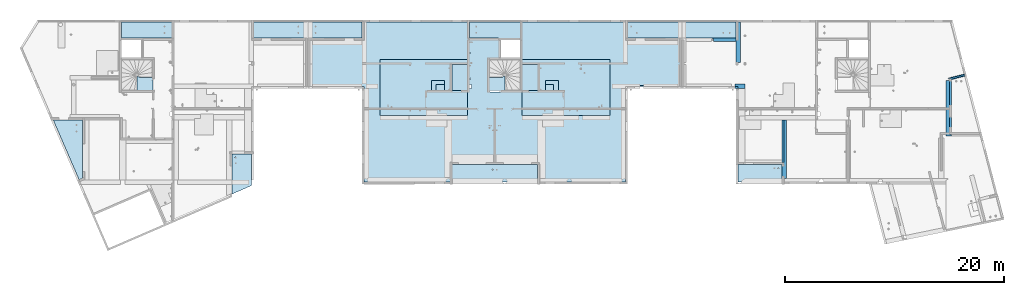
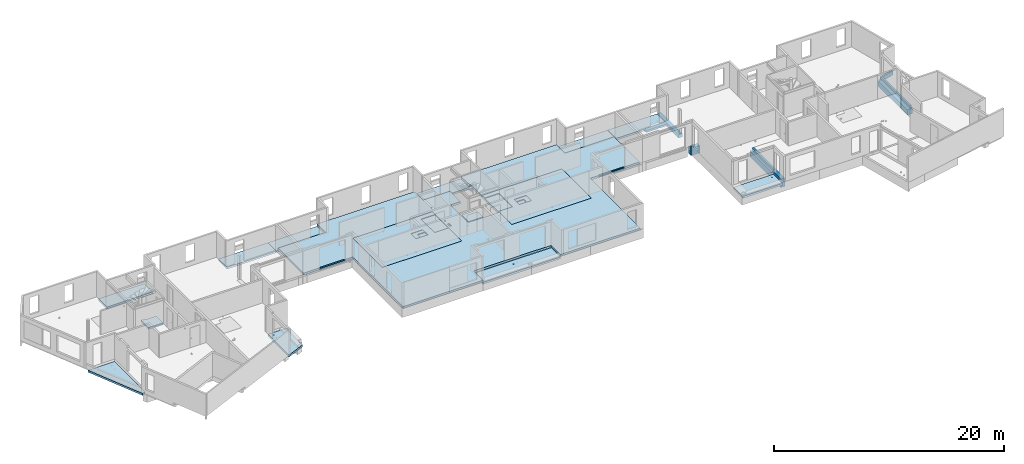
# One storey, part 3 of 34: 15 slabs, 6 beams, 14 openings.
"""IFC2X3 building model written with IfcOpenShell, lengths in centimetres."""

from ifc_helpers import new_model, entity, si_unit, converted_unit, derived_unit, direction, frame, frame_2d, origin, origin_2d_with_axis, place, context, subcontext, project, spatial, polyline, circle_curve, parameter, trimmed, segment, composite_curve, rectangle, circle, outline, extrude, faceted_brep, material, layer, layer_set, layer_usage, type_object, element, save


model = new_model("IFC2X3")

# Units and contexts
model_context = context("Model", 3, precision=0.001, world=origin(), true_north=direction((6.12303176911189e-17, 1.0)))
body_context = subcontext(model_context, "Body", "Model", "MODEL_VIEW")
ifc_project = project(units=[si_unit("LENGTHUNIT", "METRE", prefix="CENTI"), si_unit("AREAUNIT", "SQUARE_METRE"), si_unit("VOLUMEUNIT", "CUBIC_METRE"), converted_unit("PLANEANGLEUNIT", "DEGREE", entity("IfcRatioMeasure", 0.0174532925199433), si_unit("PLANEANGLEUNIT", "RADIAN"), dimensions=[0, 0, 0, 0, 0, 0, 0]), si_unit("MASSUNIT", "GRAM", prefix="KILO"), derived_unit("MASSDENSITYUNIT", [(si_unit("MASSUNIT", "GRAM", prefix="KILO"), 1), (si_unit("LENGTHUNIT", "METRE"), -3)]), si_unit("TIMEUNIT", "SECOND"), si_unit("FREQUENCYUNIT", "HERTZ"), si_unit("THERMODYNAMICTEMPERATUREUNIT", "DEGREE_CELSIUS"), derived_unit("THERMALTRANSMITTANCEUNIT", [(si_unit("MASSUNIT", "GRAM", prefix="KILO"), 1), (si_unit("THERMODYNAMICTEMPERATUREUNIT", "KELVIN"), -1), (si_unit("TIMEUNIT", "SECOND"), -3)]), derived_unit("VOLUMETRICFLOWRATEUNIT", [(si_unit("LENGTHUNIT", "METRE"), 3), (si_unit("TIMEUNIT", "SECOND"), -1)]), si_unit("ELECTRICCURRENTUNIT", "AMPERE"), si_unit("ELECTRICVOLTAGEUNIT", "VOLT"), si_unit("POWERUNIT", "WATT"), si_unit("FORCEUNIT", "NEWTON"), si_unit("ILLUMINANCEUNIT", "LUX"), si_unit("LUMINOUSFLUXUNIT", "LUMEN"), si_unit("LUMINOUSINTENSITYUNIT", "CANDELA"), derived_unit("USERDEFINED", [(si_unit("MASSUNIT", "GRAM", prefix="KILO"), -1), (si_unit("LENGTHUNIT", "METRE"), -2), (si_unit("TIMEUNIT", "SECOND"), 3), (si_unit("LUMINOUSFLUXUNIT", "LUMEN"), 1)]), derived_unit("LINEARVELOCITYUNIT", [(si_unit("LENGTHUNIT", "METRE"), 1), (si_unit("TIMEUNIT", "SECOND"), -1)]), si_unit("PRESSUREUNIT", "PASCAL"), derived_unit("USERDEFINED", [(si_unit("LENGTHUNIT", "METRE"), -2), (si_unit("MASSUNIT", "GRAM", prefix="KILO"), 1), (si_unit("TIMEUNIT", "SECOND"), -2)])], contexts=[model_context])

# Site, building, storey
site_placement = place(None, origin())
site = spatial("IfcSite", under=ifc_project, at=site_placement, Name="Default", CompositionType="ELEMENT")
building_placement = place(site_placement, origin())
building = spatial("IfcBuilding", under=site, at=building_placement, Name="CAGE 03", CompositionType="ELEMENT")
storey_placement = place(building_placement, frame((0.0, 0.0, 340.0)))
storey = spatial("IfcBuildingStorey", under=building, at=storey_placement, Name="R+1", CompositionType="ELEMENT", Elevation=340.0)

# Beams
ifc_material = material(Name="Béton, C25/30")
beam_type_1 = type_object("IfcBeamType", Name="BBGO-Poutre rect:50x80ht", PredefinedType="BEAM")
beam_1_placement = place(storey_placement, frame((11198.3658201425, 4233.66066607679, -80.0), z_axis=(0.0, 0.0, 1.0), x_axis=(0.0, 1.0, 0.0)))
element("IfcBeam", 1, at=beam_1_placement, inside=storey, type_object=beam_type_1, material=ifc_material, Name="BBGO-Poutre rect:50x80ht", ObjectType="BBGO-Poutre rect:50x80ht", context=body_context, shape_type="Brep", body=[
    faceted_brep([(528.0, -50.0, 80.0), (519.0, -50.0, 80.0), (503.0, -50.0, 80.0), (283.0, -50.0, 80.0), (174.0, -50.0, 80.0), (83.0, -50.0, 80.0), (33.0, -50.0, 80.0), (15.0, -50.0, 80.0), (15.0, -50.0, 57.0), (0.0, -50.0, 57.0), (0.0, -50.0, 35.0), (0.0, -50.0, 0.0), (510.0, -50.0, 0.0), (510.0, -50.0, 35.0), (516.64073697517, -50.0, 35.0), (519.0, -50.0, 35.0), (528.0, -50.0, 35.0), (0.0, 0.0, 0.0), (510.0, 0.0, 0.0), (0.0, 0.0, 57.0), (510.0, 0.0, 57.0), (528.0, -32.0, 80.0), (503.0, -32.0, 80.0), (283.0, -32.0, 80.0), (174.0, -32.0, 80.0), (83.0, -32.0, 80.0), (33.0, -32.0, 80.0), (15.0, -32.0, 80.0), (528.0, -32.0, 35.0), (528.0, -32.0, 57.0), (510.0, -32.0, 35.0), (510.0, -32.0, 57.0), (15.0, -32.0, 57.0)], [[[0, 1, 2, 3, 4, 5, 6, 7, 8, 9, 10, 11, 12, 13, 14, 15, 16]], [[11, 17, 18, 12]], [[17, 19, 20, 18]], [[7, 6, 5, 4, 3, 2, 1, 0, 21, 22, 23, 24, 25, 26, 27]], [[28, 29, 21, 0, 16]], [[17, 11, 10, 9, 19]], [[30, 13, 12, 18, 20, 31]], [[13, 30, 28, 16, 15, 14]], [[9, 8, 32, 31, 20, 19]], [[32, 27, 26, 25, 24, 23, 22, 21, 29, 28, 30, 31]], [[27, 32, 8, 7]]]),
])
beam_type_2 = type_object("IfcBeamType", Name="BBGO-Poutre rect:40x100ht", PredefinedType="BEAM")
beam_2_placement = place(storey_placement, frame((9275.36489605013, 4668.66066607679, -100.0)))
element("IfcBeam", 2, at=beam_2_placement, inside=storey, type_object=beam_type_2, material=ifc_material, Name="BBGO-Poutre rect:40x100ht", ObjectType="BBGO-Poutre rect:40x100ht", context=body_context, shape_type="Brep", body=[
    faceted_brep([(89.0009240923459, 0.0, 0.0), (89.0009240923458, 40.0, 0.0), (89.0009240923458, 40.0, 77.0), (89.0009240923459, 0.0, 77.0), (0.0, 0.0, 0.0), (9.00092409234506, 0.0, 0.0), (27.0009240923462, 0.0, 77.0), (27.0009240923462, 0.0, 100.0), (9.00092409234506, 0.0, 100.0), (0.0, 0.0, 100.0), (0.0, 40.0, 0.0), (0.0, 40.0, 77.0), (27.0009240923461, 18.0, 100.0), (0.0, 18.0, 100.0), (0.0, 18.0, 77.0), (27.0009240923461, 18.0, 77.0)], [[[0, 1, 2, 3]], [[4, 5, 0, 3, 6, 7, 8, 9]], [[1, 0, 5, 4, 10]], [[1, 10, 11, 2]], [[9, 8, 7, 12, 13]], [[4, 9, 13, 14, 11, 10]], [[14, 15, 6, 3, 2, 11]], [[15, 12, 7, 6]], [[12, 15, 14, 13]]]),
])
beam_type_3 = type_object("IfcBeamType", Name="BBGO-Poutre rect:40x60ht", PredefinedType="BEAM")
beam_3_placement = place(storey_placement, frame((9284.36582014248, 4904.66066607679, -60.0), z_axis=(0.0, 0.0, 1.0), x_axis=(0.0, 1.0, 0.0)))
element("IfcBeam", 3, at=beam_3_placement, inside=storey, type_object=beam_type_3, material=ifc_material, Name="BBGO-Poutre rect:40x60ht", ObjectType="BBGO-Poutre rect:40x60ht", context=body_context, shape_type="Brep", body=[
    faceted_brep([(241.0, -40.0, 0.0), (241.0, -40.0, 35.0), (251.0, -40.0, 35.0), (251.0, -40.0, 0.0), (371.0, -40.0, 0.0), (371.0, -40.0, 37.0), (0.0, -40.0, 37.0), (0.0, -40.0, 0.0), (371.0, 0.0, 0.0), (251.0, 0.0, 0.0), (0.0, 0.0, 0.0), (0.0, 0.0, 37.0), (194.0, 0.0, 37.0), (224.0, 0.0, 37.0), (371.0, 0.0, 37.0), (371.0, 0.0, 35.0), (371.0, 0.0, 15.0), (251.0, 0.0, 15.0), (251.0, 0.0, 35.0), (241.0, 0.0, 35.0), (241.0, 0.0, 15.0), (241.0, 0.0, 0.0)], [[[0, 1, 2, 3, 4, 5, 6, 7]], [[8, 4, 3, 9]], [[10, 11, 12, 13, 14, 15, 16, 8, 9, 17, 18, 19, 20, 21]], [[7, 6, 11, 10]], [[4, 8, 16, 15, 14, 5]], [[19, 1, 0, 21, 20]], [[2, 18, 17, 9, 3]], [[1, 19, 18, 2]], [[7, 10, 21, 0]], [[14, 13, 12, 11, 6, 5]]]),
])
beam_type_4 = type_object("IfcBeamType", Name="BBGO-Poutre rect:18x45ht", PredefinedType="BEAM")
beam_4_placement = place(storey_placement, frame((11220.6257780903, 4752.66066607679, -45.0), z_axis=(0.0, 0.0, 1.0), x_axis=(0.967549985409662, 0.252679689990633, 0.0)))
element("IfcBeam", 4, at=beam_4_placement, inside=storey, type_object=beam_type_4, material=ifc_material, Name="BBGO-Poutre rect:18x45ht", ObjectType="BBGO-Poutre rect:18x45ht", context=body_context, shape_type="Brep", body=[
    faceted_brep([(35.5807107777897, -9.29205013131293, 0.0), (150.817648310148, -9.29205013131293, 0.0), (150.81764831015, -9.29205013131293, 20.0), (150.81764831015, -9.29205013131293, 45.0), (35.5807107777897, -9.29205013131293, 45.0), (35.5807107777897, -9.29205013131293, 20.0), (26.8398772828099, -7.0093452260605, 0.0), (29.1139944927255, 1.69860464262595, 0.0), (11.6980947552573, 6.24683906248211, 0.0), (2.27411720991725, 8.70794986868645, 0.0), (150.817648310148, 8.70794986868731, 0.0), (12.3408240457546, 8.70794986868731, 45.0), (30.9445140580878, 8.70794986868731, 45.0), (150.817648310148, 8.70794986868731, 45.0), (150.817648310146, 8.70794986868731, 22.0), (2.27411720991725, 8.70794986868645, 22.0), (12.3408240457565, 8.70794986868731, 22.0), (11.6980947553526, 6.24683906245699, 45.0), (29.1139944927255, 1.69860464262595, 45.0), (26.8398772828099, -7.0093452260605, 45.0), (11.6980947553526, 6.24683906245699, 22.0)], [[[0, 1, 2, 3, 4, 5]], [[1, 0, 6, 7, 8, 9, 10]], [[11, 12, 13, 14, 10, 9, 15, 16]], [[13, 12, 11, 17, 18, 19, 4, 3]], [[16, 15, 20]], [[11, 16, 20, 17]], [[15, 9, 8, 7, 18, 17, 20]], [[18, 7, 6, 19]], [[5, 4, 19, 6, 0]], [[3, 2, 1, 10, 14, 13]]]),
])
beam_type_5 = type_object("IfcBeamType", Name="BBGO-Poutre rect:40x90ht", PredefinedType="BEAM")
beam_5_placement = place(storey_placement, frame((9703.36582014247, 3846.66066607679, -90.0), z_axis=(0.0, 0.0, 1.0), x_axis=(0.0, 1.0, 0.0)))
element("IfcBeam", 5, at=beam_5_placement, inside=storey, type_object=beam_type_5, material=ifc_material, Name="BBGO-Poutre rect:40x90ht", ObjectType="BBGO-Poutre rect:40x90ht", context=body_context, shape_type="Brep", body=[
    faceted_brep([(0.0, -40.0, 90.0), (0.0, -40.0, 60.0), (0.0, -40.0, 0.0), (535.0, -40.0, 0.0), (535.0, -40.0, 60.0), (535.0, -40.0, 67.0), (535.0, -40.0, 90.0), (0.0, 0.0, 0.0), (535.0, 0.0, 0.0), (0.0, 0.0, 45.0), (0.0, 0.0, 65.0), (0.0, 0.0, 90.0), (20.0, 0.0, 90.0), (111.0, 0.0, 90.0), (130.0, 0.0, 90.0), (148.0, 0.0, 90.0), (148.0, 0.0, 67.0), (170.0, 0.0, 67.0), (535.0, 0.0, 67.0), (535.0, -18.0, 90.0), (148.0, -18.0, 90.0), (535.0, -18.0, 67.0), (148.0, -18.0, 67.0)], [[[0, 1, 2, 3, 4, 5, 6]], [[2, 7, 8, 3]], [[7, 9, 10, 11, 12, 13, 14, 15, 16, 17, 18, 8]], [[11, 0, 6, 19, 20, 15, 14, 13, 12]], [[2, 1, 0, 11, 10, 9, 7]], [[3, 8, 18, 21, 19, 6, 5, 4]], [[22, 21, 18, 17, 16]], [[21, 22, 20, 19]], [[20, 22, 16, 15]]]),
])
beam_type_6 = type_object("IfcBeamType", Name="BBGO-Poutre rect:30x45ht", PredefinedType="BEAM")
beam_6_placement = place(storey_placement, frame((9067.36582014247, 5098.66066607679, -45.0)))
element("IfcBeam", 6, at=beam_6_placement, inside=storey, type_object=beam_type_6, material=ifc_material, Name="BBGO-Poutre rect:30x45ht", ObjectType="BBGO-Poutre rect:30x45ht", context=body_context, shape_type="Brep", body=[
    faceted_brep([(139.0, 0.0, 0.0), (217.0, 0.0, 0.0), (217.0, 0.0, 22.0), (9.0, 0.0, 22.0), (9.0, 0.0, 0.0), (129.0, 0.0, 0.0), (129.0, 0.0, 20.0), (139.0, 0.0, 20.0), (217.0, 30.0, 0.0), (139.0, 30.0, 0.0), (139.0, 30.0, 20.0), (129.0, 30.0, 20.0), (129.0, 30.0, 0.0), (9.0, 30.0, 0.0), (0.0, 30.0, 0.0), (0.0, 30.0, 22.0), (217.0, 30.0, 22.0), (217.0, 30.0, 20.0), (9.0, 21.0, 0.0), (0.0, 21.0, 0.0), (0.0, 21.0, 22.0), (9.0, 21.0, 22.0)], [[[0, 1, 2, 3, 4, 5, 6, 7]], [[8, 1, 0, 9]], [[8, 9, 10, 11, 12, 13, 14, 15, 16, 17]], [[1, 8, 17, 16, 2]], [[11, 6, 5, 12]], [[7, 10, 9, 0]], [[6, 11, 10, 7]], [[12, 5, 4, 18, 19, 14, 13]], [[14, 19, 20, 15]], [[4, 3, 21, 18]], [[3, 2, 16, 15, 20, 21]], [[18, 21, 20, 19]]]),
])

# Slabs
ifc_layer_1 = layer(ifc_material, 20.0)
ifc_layer_set_1 = layer_set([ifc_layer_1], Name="Sol:Dalle Béton - 20 cm")
ifc_layer_usage_1 = layer_usage(ifc_layer_set_1, "AXIS3", "POSITIVE", 0.0)
slab_1_placement = place(storey_placement, origin())
element("IfcSlab", 7, at=slab_1_placement, inside=storey, material=ifc_layer_usage_1, Name="Sol:Dalle Béton - 20 cm", ObjectType="Sol:Dalle Béton - 20 cm", PredefinedType="FLOOR", context=body_context, shape_type="SweptSolid", body=[
    extrude(outline(polyline([(-269.384294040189, -75.3166028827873), (262.342089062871, -75.3166028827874), (276.426499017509, -42.7653970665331), (-269.384294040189, 193.398602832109), (-269.384294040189, -75.3166028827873)])), frame((3243.54921725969, 4112.27637203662, -25.0), z_axis=(0.0, 0.0, -1.0), x_axis=(0.0, -1.0, 0.0)), (0.0, 0.0, 1.0), 20.0),
])
ifc_layer_usage_2 = layer_usage(ifc_layer_set_1, "AXIS3", "POSITIVE", 0.0)
slab_2_placement = place(storey_placement, origin())
element("IfcSlab", 8, at=slab_2_placement, inside=storey, material=ifc_layer_usage_2, Name="Sol:Dalle Béton - 20 cm", ObjectType="Sol:Dalle Béton - 20 cm", PredefinedType="FLOOR", context=body_context, shape_type="SweptSolid", body=[
    extrude(rectangle(XDim=147.000000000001, YDim=461.999999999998, at=frame_2d((-4.33431068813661e-13, -2.1316282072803e-13), x_axis=(1.0, 0.0))), frame((3903.36582014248, 5202.16066607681, -25.0), z_axis=(0.0, 0.0, -1.0), x_axis=(0.0, 1.0, 0.0)), (0.0, 0.0, 1.0), 20.0),
])
ifc_layer_usage_3 = layer_usage(ifc_layer_set_1, "AXIS3", "POSITIVE", 0.0)
slab_3_placement = place(storey_placement, origin())
element("IfcSlab", 9, at=slab_3_placement, inside=storey, material=ifc_layer_usage_3, Name="Sol:Dalle Béton - 20 cm", ObjectType="Sol:Dalle Béton - 20 cm", PredefinedType="FLOOR", context=body_context, shape_type="SweptSolid", body=[
    extrude(rectangle(XDim=147.000000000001, YDim=494.999999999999, at=frame_2d((-4.33431068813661e-13, -4.2632564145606e-13), x_axis=(1.0, 0.0))), frame((5125.86582014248, 5202.16066607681, -25.0), z_axis=(0.0, 0.0, -1.0), x_axis=(0.0, 1.0, 0.0)), (0.0, 0.0, 1.0), 20.0),
])
ifc_layer_usage_4 = layer_usage(ifc_layer_set_1, "AXIS3", "POSITIVE", 0.0)
slab_4_placement = place(storey_placement, origin())
element("IfcSlab", 10, at=slab_4_placement, inside=storey, material=ifc_layer_usage_4, Name="Sol:Dalle Béton - 20 cm", ObjectType="Sol:Dalle Béton - 20 cm", PredefinedType="FLOOR", context=body_context, shape_type="SweptSolid", body=[
    extrude(rectangle(XDim=147.000000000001, YDim=494.999999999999, at=frame_2d((4.33431068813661e-13, -4.2632564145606e-13), x_axis=(1.0, 0.0))), frame((5622.86582014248, 5202.1606660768, -25.0), z_axis=(0.0, 0.0, -1.0), x_axis=(0.0, 1.0, 0.0)), (0.0, 0.0, 1.0), 20.0),
])

# Slab, openings
ifc_layer_2 = layer(ifc_material, 30.0)
ifc_layer_set_2 = layer_set([ifc_layer_2], Name="Sol:Dalle Béton - 30 cm")
ifc_layer_usage_5 = layer_usage(ifc_layer_set_2, "AXIS3", "POSITIVE", 0.0)
slab_5_placement = place(storey_placement, frame((6031.36582014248, 4421.6606660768, -30.0)))
slab_5 = element("IfcSlab", 11, at=slab_5_placement, inside=storey, material=ifc_layer_usage_5, Name="Sol:Dalle Béton - 30 cm", ObjectType="Sol:Dalle Béton - 30 cm", PredefinedType="FLOOR", context=body_context, shape_type="SweptSolid", body=[
    extrude(rectangle(XDim=511.000000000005, YDim=800.0, at=frame_2d((0.0, 0.0), x_axis=(0.0, -1.0))), frame((400.0, 255.500000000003, 30.0), z_axis=(0.0, 0.0, -1.0), x_axis=(-1.0, 0.0, 0.0)), (0.0, 0.0, 1.0), 30.0),
])
opening_1_placement = place(slab_5_placement, origin())
element("IfcOpeningElement", 12, at=opening_1_placement, cuts=slab_5, ObjectType="Opening", context=body_context, shape_type="SweptSolid", body=[
    extrude(rectangle(XDim=237.000000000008, YDim=142.0, at=origin_2d_with_axis()), frame((729.0, 347.499999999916, 24.0), z_axis=(0.0, 0.0, 1.0), x_axis=(0.0, 1.0, 0.0)), (0.0, 0.0, 1.0), 16.9999999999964),
])
opening_2_placement = place(slab_5_placement, origin())
element("IfcOpeningElement", 13, at=opening_2_placement, cuts=slab_5, ObjectType="Opening", context=body_context, shape_type="SweptSolid", body=[
    extrude(rectangle(XDim=120.000000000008, YDim=90.0000000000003, at=origin_2d_with_axis()), frame((530.0, 274.0, 27.0)), (0.0, 0.0, 1.0), 13.9999999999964),
])
opening_3_placement = place(slab_5_placement, origin())
element("IfcOpeningElement", 14, at=opening_3_placement, cuts=slab_5, ObjectType="Opening", context=body_context, shape_type="SweptSolid", body=[
    extrude(rectangle(XDim=75.0000000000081, YDim=54.9999999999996, at=origin_2d_with_axis()), frame((552.499999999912, 256.500000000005, 20.0)), (0.0, 0.0, 1.0), 20.9999999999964),
])

ifc_layer_usage_6 = layer_usage(ifc_layer_set_2, "AXIS3", "POSITIVE", 0.0)
slab_6_placement = place(storey_placement, frame((7331.36582014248, 4421.6606660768, -30.0)))
slab_6 = element("IfcSlab", 15, at=slab_6_placement, inside=storey, material=ifc_layer_usage_6, Name="Sol:Dalle Béton - 30 cm", ObjectType="Sol:Dalle Béton - 30 cm", PredefinedType="FLOOR", context=body_context, shape_type="SweptSolid", body=[
    extrude(rectangle(XDim=511.000000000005, YDim=800.0, at=frame_2d((0.0, 0.0), x_axis=(0.0, -1.0))), frame((400.0, 255.500000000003, 30.0), z_axis=(0.0, 0.0, -1.0), x_axis=(-1.0, 0.0, 0.0)), (0.0, 0.0, 1.0), 30.0),
])
opening_4_placement = place(slab_6_placement, origin())
element("IfcOpeningElement", 16, at=opening_4_placement, cuts=slab_6, ObjectType="Opening", context=body_context, shape_type="SweptSolid", body=[
    extrude(rectangle(XDim=237.000000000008, YDim=142.0, at=origin_2d_with_axis()), frame((71.0, 347.499999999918, 24.0), z_axis=(0.0, 0.0, 1.0), x_axis=(0.0, 1.0, 0.0)), (0.0, 0.0, 1.0), 16.9999999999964),
])
opening_5_placement = place(slab_6_placement, origin())
element("IfcOpeningElement", 17, at=opening_5_placement, cuts=slab_6, ObjectType="Opening", context=body_context, shape_type="SweptSolid", body=[
    extrude(rectangle(XDim=120.000000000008, YDim=90.0000000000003, at=origin_2d_with_axis()), frame((270.0, 274.0, 27.0)), (0.0, 0.0, 1.0), 13.9999999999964),
])
opening_6_placement = place(slab_6_placement, origin())
element("IfcOpeningElement", 18, at=opening_6_placement, cuts=slab_6, ObjectType="Opening", context=body_context, shape_type="SweptSolid", body=[
    extrude(rectangle(XDim=75.0000000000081, YDim=54.9999999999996, at=origin_2d_with_axis()), frame((247.499999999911, 256.500000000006, 20.0)), (0.0, 0.0, 1.0), 20.9999999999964),
])

# Slabs
ifc_layer_usage_7 = layer_usage(ifc_layer_set_1, "AXIS3", "POSITIVE", 0.0)
slab_7_placement = place(storey_placement, origin())
element("IfcSlab", 19, at=slab_7_placement, inside=storey, material=ifc_layer_usage_7, Name="Sol:Dalle Béton - 20 cm", ObjectType="Sol:Dalle Béton - 20 cm", PredefinedType="FLOOR", context=body_context, shape_type="SweptSolid", body=[
    extrude(outline(polyline([(-367.499999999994, -113.499999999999), (412.499999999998, -113.499999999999), (412.499999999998, 16.5000000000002), (412.499999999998, 48.4999999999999), (-48.76500600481, 48.5000000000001), (-86.2349939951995, 48.5), (-367.499999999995, 48.5000000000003), (-367.499999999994, 16.4999999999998), (-367.499999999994, -113.499999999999)]), holes=[composite_curve([segment(trimmed(circle_curve(frame_2d((41.0, -63.4975145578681), x_axis=(-1.0, 0.0)), 5.5), [parameter(360.0)], [parameter(180.0)], True, "PARAMETER"), False, "CONTINUOUS"), segment(trimmed(circle_curve(frame_2d((41.0, -63.4975145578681), x_axis=(-1.0, 0.0)), 5.5), [parameter(180.0)], [parameter(360.0)], True, "PARAMETER"), False, "CONTINUOUS")], self_intersect=False)]), frame((7103.86582014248, 3863.1606660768, -45.0), z_axis=(0.0, 0.0, 1.0), x_axis=(-1.0, 0.0, 0.0)), (0.0, 0.0, 1.0), 20.0),
])
ifc_layer_usage_8 = layer_usage(ifc_layer_set_1, "AXIS3", "POSITIVE", 0.0)
slab_8_placement = place(storey_placement, origin())
element("IfcSlab", 20, at=slab_8_placement, inside=storey, material=ifc_layer_usage_8, Name="Sol:Dalle Béton - 20 cm", ObjectType="Sol:Dalle Béton - 20 cm", PredefinedType="FLOOR", context=body_context, shape_type="SweptSolid", body=[
    extrude(outline(polyline([(-47.1666666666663, -243.333333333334), (99.8333333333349, -243.333333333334), (99.833333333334, 220.666666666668), (-52.6666666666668, 220.666666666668), (-52.6666666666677, 22.6666666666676), (-47.1666666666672, 22.6666666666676), (-47.1666666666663, -243.333333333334)])), frame((7092.69915347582, 5175.82733274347, -25.0), z_axis=(0.0, 0.0, -1.0), x_axis=(0.0, 1.0, 0.0)), (0.0, 0.0, 1.0), 20.0),
])

# Slab, openings
ifc_layer_3 = layer(ifc_material, 23.0)
ifc_layer_set_3 = layer_set([ifc_layer_3], Name="Sol:Dalle Béton - 23 cm")
ifc_layer_usage_9 = layer_usage(ifc_layer_set_3, "AXIS3", "POSITIVE", 0.0)
slab_9_placement = place(storey_placement, frame((5393.36582014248, 3814.6606660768, -23.0)))
slab_9 = element("IfcSlab", 21, at=slab_9_placement, inside=storey, material=ifc_layer_usage_9, Name="Sol:Dalle Béton - 23 cm", ObjectType="Sol:Dalle Béton - 23 cm", PredefinedType="FLOOR", context=body_context, shape_type="SweptSolid", body=[
    extrude(outline(polyline([(232.0, 730.5), (232.0, 583.499999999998), (-37.0, 583.499999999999), (-37.0, 400.0), (62.4999999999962, 400.0), (62.4999999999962, 93.0), (-250.0, 93.0), (-250.0, -123.500000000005), (-1050.0, -123.500000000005), (-1050.0, 387.499999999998), (-244.0, 387.5), (-244.0, 578.0), (-232.0, 578.0), (-232.0, 730.5), (-1193.0, 730.499999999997), (-1193.0, 583.499999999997), (-1688.0, 583.499999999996), (-1688.0, 141.499999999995), (-1193.0, 141.499999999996), (-1193.0, -730.500000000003), (-390.0, -730.500000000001), (-390.0, -568.500000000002), (390.0, -568.499999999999), (390.0, -730.499999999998), (1193.0, -730.499999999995), (1193.0, 141.500000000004), (1688.0, 141.500000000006), (1688.0, 583.500000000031), (1211.0, 583.500000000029), (1211.0, 730.500000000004), (232.0, 730.5)])), frame((1688.0, 730.500000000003, 23.0), z_axis=(0.0, 0.0, -1.0), x_axis=(-1.0, 0.0, 0.0)), (0.0, 0.0, 1.0), 23.0),
])
opening_7_placement = place(slab_9_placement, origin())
element("IfcOpeningElement", 22, at=opening_7_placement, cuts=slab_9, ObjectType="Opening", context=body_context, shape_type="SweptSolid", body=[
    extrude(rectangle(XDim=237.000000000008, YDim=142.0, at=origin_2d_with_axis()), frame((1367.0, 954.499999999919, 17.0), z_axis=(0.0, 0.0, 1.0), x_axis=(0.0, 1.0, 0.0)), (0.0, 0.0, 1.0), 16.9999999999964),
])
opening_8_placement = place(slab_9_placement, origin())
element("IfcOpeningElement", 23, at=opening_8_placement, cuts=slab_9, ObjectType="Opening", context=body_context, shape_type="SweptSolid", body=[
    extrude(rectangle(XDim=254.999999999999, YDim=26.0000000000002, at=origin_2d_with_axis()), frame((284.5, 867.0, 11.0)), (0.0, 0.0, 1.0), 11.9999999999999),
])
opening_9_placement = place(slab_9_placement, origin())
element("IfcOpeningElement", 24, at=opening_9_placement, cuts=slab_9, ObjectType="Opening", context=body_context, shape_type="SweptSolid", body=[
    extrude(rectangle(XDim=255.000000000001, YDim=25.9999999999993, at=origin_2d_with_axis()), frame((3091.49999999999, 867.0, 11.0)), (0.0, 0.0, 1.0), 11.9999999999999),
])
opening_10_placement = place(slab_9_placement, origin())
element("IfcOpeningElement", 25, at=opening_10_placement, cuts=slab_9, ObjectType="Opening", context=body_context, shape_type="SweptSolid", body=[
    extrude(rectangle(XDim=237.000000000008, YDim=142.0, at=origin_2d_with_axis()), frame((2009.0, 954.499999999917, 17.0), z_axis=(0.0, 0.0, 1.0), x_axis=(0.0, 1.0, 0.0)), (0.0, 0.0, 1.0), 16.9999999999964),
])
opening_11_placement = place(slab_9_placement, origin())
element("IfcOpeningElement", 26, at=opening_11_placement, cuts=slab_9, ObjectType="Opening", context=body_context, shape_type="SweptSolid", body=[
    extrude(rectangle(XDim=39.9999999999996, YDim=19.9999999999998, at=origin_2d_with_axis()), frame((1466.0, 872.500000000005, -251.327930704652), z_axis=(0.0, 0.0, 1.0), x_axis=(0.0, -1.0, 0.0)), (0.0, 0.0, 1.0), 493.425926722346),
])
opening_12_placement = place(slab_9_placement, origin())
element("IfcOpeningElement", 27, at=opening_12_placement, cuts=slab_9, ObjectType="Opening", context=body_context, shape_type="SweptSolid", body=[
    extrude(circle(Radius=5.5, at=origin_2d_with_axis()), frame((1461.5, 942.500000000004, 0.0)), (0.0, 0.0, 1.0), 23.0),
])
opening_13_placement = place(slab_9_placement, origin())
element("IfcOpeningElement", 28, at=opening_13_placement, cuts=slab_9, ObjectType="Opening", context=body_context, shape_type="SweptSolid", body=[
    extrude(circle(Radius=5.5, at=origin_2d_with_axis()), frame((1461.5, 1177.0, 0.0)), (0.0, 0.0, 1.0), 23.0),
])
opening_14_placement = place(slab_9_placement, frame((1038.0, 862.500000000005, 23.0)))
element("IfcOpeningElement", 29, at=opening_14_placement, cuts=slab_9, Name="Sol:Dalle Béton - 23 cm:2", ObjectType="Opening", context=body_context, shape_type="SweptSolid", body=[
    extrude(rectangle(XDim=511.000000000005, YDim=800.0, at=origin_2d_with_axis()), frame((0.0, 0.0, 0.0), z_axis=(0.0, 0.0, -1.0), x_axis=(0.0, -1.0, 0.0)), (0.0, 0.0, 1.0), 23.0),
])

# Slabs
ifc_layer_usage_10 = layer_usage(ifc_layer_set_1, "AXIS3", "POSITIVE", 0.0)
slab_10_placement = place(storey_placement, origin())
element("IfcSlab", 30, at=slab_10_placement, inside=storey, material=ifc_layer_usage_10, Name="Sol:Dalle Béton - 20 cm", ObjectType="Sol:Dalle Béton - 20 cm", PredefinedType="FLOOR", context=body_context, shape_type="SweptSolid", body=[
    extrude(rectangle(XDim=147.000000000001, YDim=495.000000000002, at=frame_2d((-8.66862137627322e-13, 0.0), x_axis=(1.0, 0.0))), frame((8539.86582014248, 5202.1606660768, -25.0), z_axis=(0.0, 0.0, -1.0), x_axis=(0.0, 1.0, 0.0)), (0.0, 0.0, 1.0), 20.0),
])
ifc_layer_usage_11 = layer_usage(ifc_layer_set_1, "AXIS3", "POSITIVE", 0.0)
slab_11_placement = place(storey_placement, origin())
element("IfcSlab", 31, at=slab_11_placement, inside=storey, material=ifc_layer_usage_11, Name="Sol:Dalle Béton - 20 cm", ObjectType="Sol:Dalle Béton - 20 cm", PredefinedType="FLOOR", context=body_context, shape_type="SweptSolid", body=[
    extrude(rectangle(XDim=147.000000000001, YDim=495.000000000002, at=origin_2d_with_axis()), frame((9036.86582014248, 5202.16066607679, -25.0), z_axis=(0.0, 0.0, -1.0), x_axis=(0.0, 1.0, 0.0)), (0.0, 0.0, 1.0), 20.0),
])
ifc_layer_usage_12 = layer_usage(ifc_layer_set_1, "AXIS3", "POSITIVE", 0.0)
slab_12_placement = place(storey_placement, origin())
element("IfcSlab", 32, at=slab_12_placement, inside=storey, material=ifc_layer_usage_12, Name="Sol:Dalle Béton - 20 cm", ObjectType="Sol:Dalle Béton - 20 cm", PredefinedType="FLOOR", context=body_context, shape_type="SweptSolid", body=[
    extrude(outline(polyline([(-87.4545454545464, -213.316204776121), (-25.4545454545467, -213.316204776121), (92.5454545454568, -213.316204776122), (92.5454545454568, 27.1837952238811), (92.5454545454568, 67.183795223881), (92.5454545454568, 148.748600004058), (92.5454545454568, 154.741369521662), (-87.4545454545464, 76.8581167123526), (-87.4545454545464, 70.8653471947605), (-87.4545454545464, 67.1837952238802), (-87.4545454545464, 27.1837952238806), (-87.4545454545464, -213.316204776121)]), holes=[composite_curve([segment(trimmed(circle_curve(frame_2d((57.5454545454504, -178.316204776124), x_axis=(-1.0, 0.0)), 5.5), [parameter(360.0)], [parameter(180.000000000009)], True, "PARAMETER"), False, "CONTINUOUS"), segment(trimmed(circle_curve(frame_2d((57.5454545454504, -178.316204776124), x_axis=(-1.0, 0.0)), 5.5), [parameter(180.000000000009)], [parameter(360.0)], True, "PARAMETER"), False, "CONTINUOUS")], self_intersect=False)]), frame((4772.91127468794, 3858.84446130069, -45.0), z_axis=(0.0, 0.0, 1.0), x_axis=(-1.0, 0.0, 0.0)), (0.0, 0.0, 1.0), 20.0),
])
ifc_layer_usage_13 = layer_usage(ifc_layer_set_1, "AXIS3", "POSITIVE", 0.0)
slab_13_placement = place(storey_placement, origin())
element("IfcSlab", 33, at=slab_13_placement, inside=storey, material=ifc_layer_usage_13, Name="Sol:Dalle Béton - 20 cm", ObjectType="Sol:Dalle Béton - 20 cm", PredefinedType="FLOOR", context=body_context, shape_type="SweptSolid", body=[
    extrude(outline(polyline([(-239.033125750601, -94.3750000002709), (99.9668742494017, -94.3750000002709), (161.966874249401, -94.3750000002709), (161.966874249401, 44.6250000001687), (161.966874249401, 67.6250000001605), (131.231880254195, 67.6250000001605), (-239.033125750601, 67.6250000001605), (-239.033125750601, 35.6250000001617), (-239.033125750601, -94.3750000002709)]), holes=[composite_curve([segment(trimmed(circle_curve(frame_2d((-204.033125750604, -59.3749999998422), x_axis=(-1.0, 0.0)), 5.5), [parameter(360.0)], [parameter(180.0)], True, "PARAMETER"), False, "CONTINUOUS"), segment(trimmed(circle_curve(frame_2d((-204.033125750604, -59.3749999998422), x_axis=(-1.0, 0.0)), 5.5), [parameter(180.0)], [parameter(360.0)], True, "PARAMETER"), False, "CONTINUOUS")], self_intersect=False)]), frame((9464.33269439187, 3882.28566607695, -45.0), z_axis=(0.0, 0.0, 1.0), x_axis=(-1.0, 0.0, 0.0)), (0.0, 0.0, 1.0), 20.0),
])
ifc_layer_usage_14 = layer_usage(ifc_layer_set_1, "AXIS3", "POSITIVE", 0.0)
slab_14_placement = place(storey_placement, origin())
element("IfcSlab", 34, at=slab_14_placement, inside=storey, material=ifc_layer_usage_14, Name="Sol:Dalle Béton - 20 cm", ObjectType="Sol:Dalle Béton - 20 cm", PredefinedType="FLOOR", context=body_context, shape_type="SweptSolid", body=[
    extrude(outline(composite_curve([segment(polyline([(-85.2340667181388, -57.4078537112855), (46.2659332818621, -57.4078537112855)]), True, "CONTINUOUS"), segment(trimmed(circle_curve(frame_2d((61.265933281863, -57.407853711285), x_axis=(-1.0, 0.0)), 15.0000000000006), [parameter(309.828117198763)], [parameter(0.0)], True, "PARAMETER"), False, "CONTINUOUS"), segment(trimmed(circle_curve(frame_2d((70.189448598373, -17.4802710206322), x_axis=(-0.546347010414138, -0.837558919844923)), 33.9176653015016), [parameter(303.116761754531)], [parameter(0.0)], True, "PARAMETER"), False, "CONTINUOUS"), segment(polyline([(36.271783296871, -17.4802710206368), (36.271783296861, 89.0921462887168)]), True, "CONTINUOUS"), segment(polyline([(36.271783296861, 89.0921462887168), (-85.2340667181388, 89.0921462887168)]), True, "CONTINUOUS"), segment(polyline([(-85.2340667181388, 89.0921462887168), (-85.2340667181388, -57.4078537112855)]), True, "CONTINUOUS")], self_intersect=False)), frame((3870.77367385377, 4730.39473279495, 0.0), z_axis=(0.0, 0.0, -1.0), x_axis=(0.0, 1.0, 0.0)), (0.0, 0.0, 1.0), 20.0),
])
ifc_layer_usage_15 = layer_usage(ifc_layer_set_1, "AXIS3", "POSITIVE", 0.0)
slab_15_placement = place(storey_placement, origin())
element("IfcSlab", 35, at=slab_15_placement, inside=storey, material=ifc_layer_usage_15, Name="Sol:Dalle Béton - 20 cm", ObjectType="Sol:Dalle Béton - 20 cm", PredefinedType="FLOOR", context=body_context, shape_type="SweptSolid", body=[
    extrude(outline(composite_curve([segment(polyline([(-85.2340667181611, -89.0921462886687), (36.2717832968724, -89.0921462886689)]), True, "CONTINUOUS"), segment(polyline([(36.2717832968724, -89.0921462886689), (36.2717832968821, 17.4802710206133)]), True, "CONTINUOUS"), segment(trimmed(circle_curve(frame_2d((70.1894485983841, 17.4802710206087), x_axis=(-1.0, 0.0)), 33.9176653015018), [parameter(303.116761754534)], [parameter(0.0)], True, "PARAMETER"), False, "CONTINUOUS"), segment(trimmed(circle_curve(frame_2d((61.2659332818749, 57.4078537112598), x_axis=(-0.640486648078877, -0.76796930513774)), 15.0000000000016), [parameter(309.828117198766)], [parameter(0.0)], True, "PARAMETER"), False, "CONTINUOUS"), segment(polyline([(46.2659332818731, 57.4078537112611), (-85.2340667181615, 57.4078537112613)]), True, "CONTINUOUS"), segment(polyline([(-85.2340667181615, 57.4078537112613), (-85.2340667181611, -89.0921462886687)]), True, "CONTINUOUS")], self_intersect=False)), frame((7114.95796643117, 4730.39473279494, 0.0), z_axis=(0.0, 0.0, -1.0), x_axis=(0.0, 1.0, 0.0)), (0.0, 0.0, 1.0), 20.0),
])

save(model, "model.ifc")
